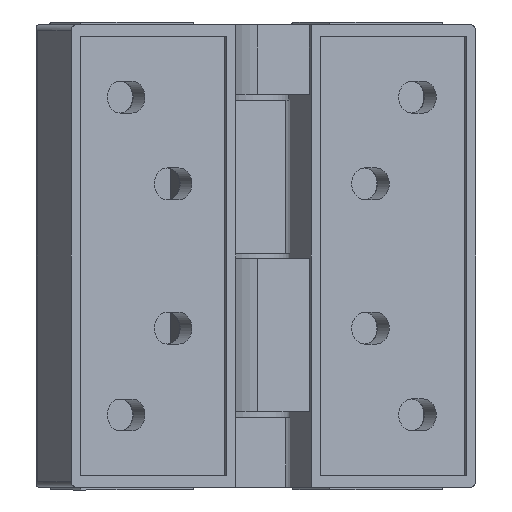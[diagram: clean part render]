
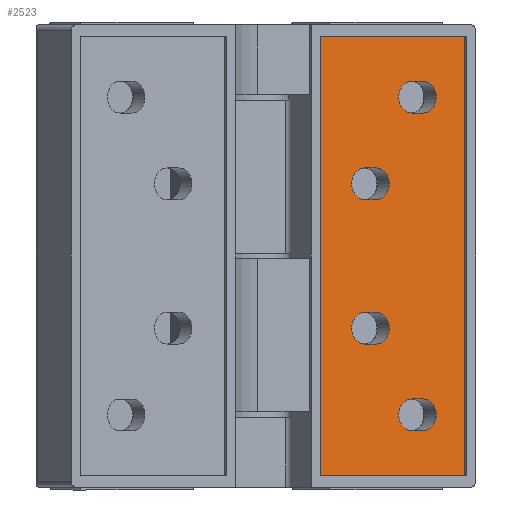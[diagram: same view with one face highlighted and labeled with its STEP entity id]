
A CAD part, front view. The second image highlights one B-rep face of the part: STEP entity #2523.
In plain terms, the highlighted planar face has unit normal (0.582, -0.813, 0) as drawn and (0, -1, 0) by its records, which use the part's own axes.
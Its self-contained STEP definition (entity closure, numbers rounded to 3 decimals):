
#86=FACE_BOUND('',#557,.T.);
#87=FACE_BOUND('',#558,.T.);
#88=FACE_BOUND('',#559,.T.);
#89=FACE_BOUND('',#560,.T.);
#126=CIRCLE('',#2636,2.75);
#136=CIRCLE('',#2654,2.75);
#146=CIRCLE('',#2672,2.75);
#156=CIRCLE('',#2689,2.75);
#177=CIRCLE('',#2748,2.75);
#178=CIRCLE('',#2751,2.75);
#179=CIRCLE('',#2754,2.75);
#180=CIRCLE('',#2757,2.75);
#261=PLANE('',#2765);
#397=FACE_OUTER_BOUND('',#556,.T.);
#556=EDGE_LOOP('',(#2271,#2272,#2273,#2274));
#557=EDGE_LOOP('',(#2275,#2276,#2277,#2278));
#558=EDGE_LOOP('',(#2279,#2280,#2281,#2282));
#559=EDGE_LOOP('',(#2283,#2284,#2285,#2286));
#560=EDGE_LOOP('',(#2287,#2288,#2289,#2290));
#688=LINE('',#3854,#932);
#700=LINE('',#3898,#944);
#712=LINE('',#3942,#956);
#726=LINE('',#3993,#970);
#800=LINE('',#4182,#1044);
#802=LINE('',#4188,#1046);
#804=LINE('',#4194,#1048);
#806=LINE('',#4200,#1050);
#815=LINE('',#4218,#1059);
#819=LINE('',#4225,#1063);
#822=LINE('',#4231,#1066);
#824=LINE('',#4234,#1068);
#932=VECTOR('',#3085,2.5);
#944=VECTOR('',#3133,2.5);
#956=VECTOR('',#3181,2.5);
#970=VECTOR('',#3237,2.5);
#1044=VECTOR('',#3429,2.5);
#1046=VECTOR('',#3437,2.5);
#1048=VECTOR('',#3445,2.5);
#1050=VECTOR('',#3453,2.5);
#1059=VECTOR('',#3468,76.);
#1063=VECTOR('',#3474,31.);
#1066=VECTOR('',#3479,76.);
#1068=VECTOR('',#3483,31.);
#1185=VERTEX_POINT('',#3851);
#1186=VERTEX_POINT('',#3853);
#1188=VERTEX_POINT('',#3859);
#1199=VERTEX_POINT('',#3895);
#1200=VERTEX_POINT('',#3897);
#1202=VERTEX_POINT('',#3903);
#1213=VERTEX_POINT('',#3939);
#1214=VERTEX_POINT('',#3941);
#1216=VERTEX_POINT('',#3947);
#1227=VERTEX_POINT('',#3983);
#1228=VERTEX_POINT('',#3985);
#1230=VERTEX_POINT('',#3991);
#1286=VERTEX_POINT('',#4178);
#1287=VERTEX_POINT('',#4184);
#1288=VERTEX_POINT('',#4190);
#1289=VERTEX_POINT('',#4196);
#1294=VERTEX_POINT('',#4215);
#1295=VERTEX_POINT('',#4217);
#1297=VERTEX_POINT('',#4223);
#1299=VERTEX_POINT('',#4229);
#1450=EDGE_CURVE('',#1186,#1185,#688,.T.);
#1454=EDGE_CURVE('',#1185,#1188,#126,.T.);
#1472=EDGE_CURVE('',#1200,#1199,#700,.T.);
#1476=EDGE_CURVE('',#1199,#1202,#136,.T.);
#1494=EDGE_CURVE('',#1214,#1213,#712,.T.);
#1498=EDGE_CURVE('',#1213,#1216,#146,.T.);
#1516=EDGE_CURVE('',#1228,#1227,#156,.T.);
#1520=EDGE_CURVE('',#1227,#1230,#726,.T.);
#1613=EDGE_CURVE('',#1286,#1200,#177,.T.);
#1615=EDGE_CURVE('',#1202,#1286,#800,.T.);
#1617=EDGE_CURVE('',#1230,#1287,#178,.T.);
#1618=EDGE_CURVE('',#1287,#1228,#802,.T.);
#1619=EDGE_CURVE('',#1288,#1214,#179,.T.);
#1621=EDGE_CURVE('',#1216,#1288,#804,.T.);
#1622=EDGE_CURVE('',#1289,#1186,#180,.T.);
#1624=EDGE_CURVE('',#1188,#1289,#806,.T.);
#1633=EDGE_CURVE('',#1294,#1295,#815,.T.);
#1637=EDGE_CURVE('',#1297,#1294,#819,.T.);
#1640=EDGE_CURVE('',#1299,#1297,#822,.T.);
#1642=EDGE_CURVE('',#1295,#1299,#824,.T.);
#2271=ORIENTED_EDGE('',*,*,#1642,.F.);
#2272=ORIENTED_EDGE('',*,*,#1633,.F.);
#2273=ORIENTED_EDGE('',*,*,#1637,.F.);
#2274=ORIENTED_EDGE('',*,*,#1640,.F.);
#2275=ORIENTED_EDGE('',*,*,#1613,.T.);
#2276=ORIENTED_EDGE('',*,*,#1472,.T.);
#2277=ORIENTED_EDGE('',*,*,#1476,.T.);
#2278=ORIENTED_EDGE('',*,*,#1615,.T.);
#2279=ORIENTED_EDGE('',*,*,#1516,.T.);
#2280=ORIENTED_EDGE('',*,*,#1520,.T.);
#2281=ORIENTED_EDGE('',*,*,#1617,.T.);
#2282=ORIENTED_EDGE('',*,*,#1618,.T.);
#2283=ORIENTED_EDGE('',*,*,#1619,.T.);
#2284=ORIENTED_EDGE('',*,*,#1494,.T.);
#2285=ORIENTED_EDGE('',*,*,#1498,.T.);
#2286=ORIENTED_EDGE('',*,*,#1621,.T.);
#2287=ORIENTED_EDGE('',*,*,#1622,.T.);
#2288=ORIENTED_EDGE('',*,*,#1450,.T.);
#2289=ORIENTED_EDGE('',*,*,#1454,.T.);
#2290=ORIENTED_EDGE('',*,*,#1624,.T.);
#2523=ADVANCED_FACE('',(#397,#86,#87,#88,#89),#261,.F.);
#2636=AXIS2_PLACEMENT_3D('',#3861,#3092,#3093);
#2654=AXIS2_PLACEMENT_3D('',#3905,#3140,#3141);
#2672=AXIS2_PLACEMENT_3D('',#3949,#3188,#3189);
#2689=AXIS2_PLACEMENT_3D('',#3986,#3230,#3231);
#2748=AXIS2_PLACEMENT_3D('',#4179,#3424,#3425);
#2751=AXIS2_PLACEMENT_3D('',#4186,#3433,#3434);
#2754=AXIS2_PLACEMENT_3D('',#4191,#3440,#3441);
#2757=AXIS2_PLACEMENT_3D('',#4197,#3448,#3449);
#2765=AXIS2_PLACEMENT_3D('',#4235,#3484,#3485);
#3085=DIRECTION('',(-1.,0.,0.));
#3092=DIRECTION('center_axis',(0.,1.,0.));
#3093=DIRECTION('ref_axis',(0.,0.,-1.));
#3133=DIRECTION('',(-1.,0.,0.));
#3140=DIRECTION('center_axis',(0.,1.,0.));
#3141=DIRECTION('ref_axis',(0.,0.,-1.));
#3181=DIRECTION('',(-1.,0.,0.));
#3188=DIRECTION('center_axis',(0.,1.,0.));
#3189=DIRECTION('ref_axis',(0.,0.,-1.));
#3230=DIRECTION('center_axis',(0.,1.,0.));
#3231=DIRECTION('ref_axis',(0.,0.,-1.));
#3237=DIRECTION('',(1.,0.,0.));
#3424=DIRECTION('center_axis',(0.,1.,0.));
#3425=DIRECTION('ref_axis',(0.,0.,1.));
#3429=DIRECTION('',(1.,0.,0.));
#3433=DIRECTION('center_axis',(0.,1.,0.));
#3434=DIRECTION('ref_axis',(0.,0.,1.));
#3437=DIRECTION('',(-1.,0.,0.));
#3440=DIRECTION('center_axis',(0.,1.,0.));
#3441=DIRECTION('ref_axis',(0.,0.,1.));
#3445=DIRECTION('',(1.,0.,0.));
#3448=DIRECTION('center_axis',(0.,1.,0.));
#3449=DIRECTION('ref_axis',(0.,0.,1.));
#3453=DIRECTION('',(1.,0.,0.));
#3468=DIRECTION('',(0.,0.,1.));
#3474=DIRECTION('',(-1.,0.,0.));
#3479=DIRECTION('',(0.,0.,-1.));
#3483=DIRECTION('',(1.,0.,0.));
#3484=DIRECTION('center_axis',(0.,1.,0.));
#3485=DIRECTION('ref_axis',(0.,0.,1.));
#3851=CARTESIAN_POINT('',(-24.25,0.5,-70.25));
#3853=CARTESIAN_POINT('',(-21.75,0.5,-70.25));
#3854=CARTESIAN_POINT('',(-19.625,0.5,-70.25));
#3859=CARTESIAN_POINT('',(-24.25,0.5,-64.75));
#3861=CARTESIAN_POINT('Origin',(-24.25,0.5,-67.5));
#3895=CARTESIAN_POINT('',(-14.25,0.5,-55.25));
#3897=CARTESIAN_POINT('',(-11.75,0.5,-55.25));
#3898=CARTESIAN_POINT('',(-14.625,0.5,-55.25));
#3903=CARTESIAN_POINT('',(-14.25,0.5,-49.75));
#3905=CARTESIAN_POINT('Origin',(-14.25,0.5,-52.5));
#3939=CARTESIAN_POINT('',(-14.25,0.5,-30.25));
#3941=CARTESIAN_POINT('',(-11.75,0.5,-30.25));
#3942=CARTESIAN_POINT('',(-14.625,0.5,-30.25));
#3947=CARTESIAN_POINT('',(-14.25,0.5,-24.75));
#3949=CARTESIAN_POINT('Origin',(-14.25,0.5,-27.5));
#3983=CARTESIAN_POINT('',(-24.25,0.5,-9.75));
#3985=CARTESIAN_POINT('',(-24.25,0.5,-15.25));
#3986=CARTESIAN_POINT('Origin',(-24.25,0.5,-12.5));
#3991=CARTESIAN_POINT('',(-21.75,0.5,-9.75));
#3993=CARTESIAN_POINT('',(-20.875,0.5,-9.75));
#4178=CARTESIAN_POINT('',(-11.75,0.5,-49.75));
#4179=CARTESIAN_POINT('Origin',(-11.75,0.5,-52.5));
#4182=CARTESIAN_POINT('',(-15.875,0.5,-49.75));
#4184=CARTESIAN_POINT('',(-21.75,0.5,-15.25));
#4186=CARTESIAN_POINT('Origin',(-21.75,0.5,-12.5));
#4188=CARTESIAN_POINT('',(-19.625,0.5,-15.25));
#4190=CARTESIAN_POINT('',(-11.75,0.5,-24.75));
#4191=CARTESIAN_POINT('Origin',(-11.75,0.5,-27.5));
#4194=CARTESIAN_POINT('',(-15.875,0.5,-24.75));
#4196=CARTESIAN_POINT('',(-21.75,0.5,-64.75));
#4197=CARTESIAN_POINT('Origin',(-21.75,0.5,-67.5));
#4200=CARTESIAN_POINT('',(-20.875,0.5,-64.75));
#4215=CARTESIAN_POINT('',(-33.,0.5,-78.));
#4217=CARTESIAN_POINT('',(-33.,0.5,-2.));
#4218=CARTESIAN_POINT('',(-33.,0.5,-2.));
#4223=CARTESIAN_POINT('',(-2.,0.5,-78.));
#4225=CARTESIAN_POINT('',(-33.,0.5,-78.));
#4229=CARTESIAN_POINT('',(-2.,0.5,-2.));
#4231=CARTESIAN_POINT('',(-2.,0.5,-78.));
#4234=CARTESIAN_POINT('',(-2.,0.5,-2.));
#4235=CARTESIAN_POINT('Origin',(-17.5,0.5,-40.));
